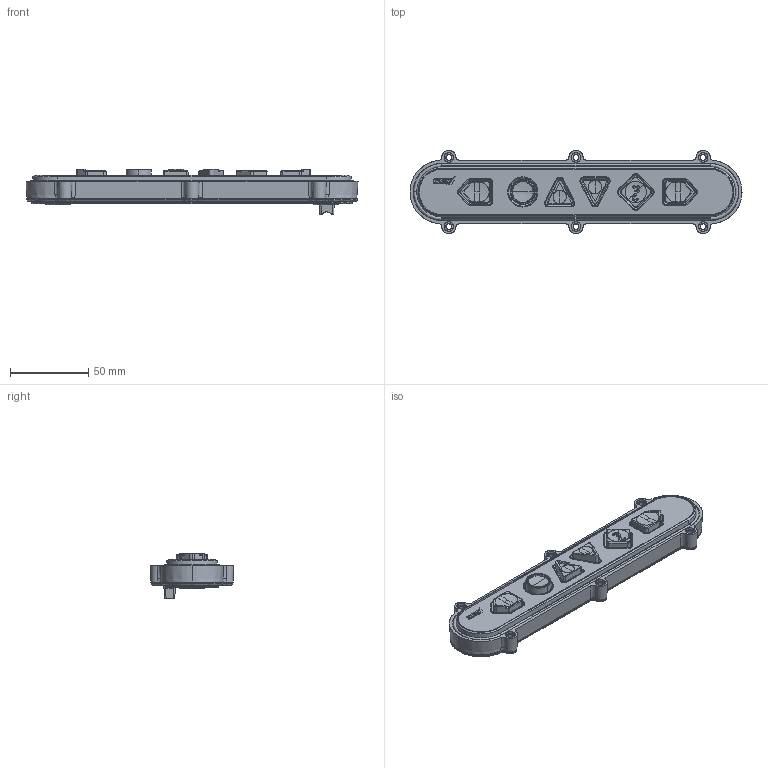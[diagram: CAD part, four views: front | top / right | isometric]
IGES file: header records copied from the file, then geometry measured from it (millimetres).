
Start section: SolidWorks IGES file using analytic representation for surfaces
Global section: file name: C:\Users\anthonyc\Desktop\Under panel Nav-bar.IGS; native system: SolidWorks 2017; preprocessor: SolidWorks 2017; author: anthonyc; date: 170421.105249; units: millimetre
Bounding box: 211.5 x 53 x 28.89 mm (x, y, z)
Surface area: 42564.8 mm2 (no closed solid volume)
Topology: 0 solids, 0 shells, 917 faces, 11493 edges, 11486 vertices
Faces by surface type: bspline 561, revolution 356
